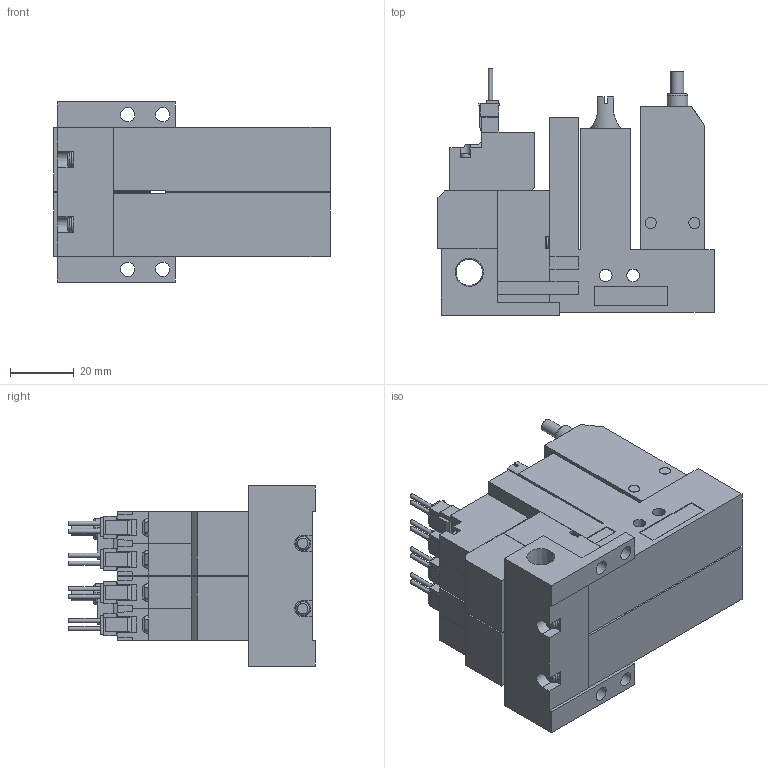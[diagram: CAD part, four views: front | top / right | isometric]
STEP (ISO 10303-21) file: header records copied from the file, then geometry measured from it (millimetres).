
FILE_DESCRIPTION(('STEP AP203'),'1');
FILE_NAME('ABS_ABPL5BLR202.stp','2025-02-18T06:29:37',(' '),(' '),'Spatial InterOp 3D',' ',' ');
FILE_SCHEMA(('CONFIG_CONTROL_DESIGN'));
Length unit declared in the file: millimetre
Products named in the file (5): BMC22M※※※※ABS_ABPL5BLR202; Solenoid valve B; Pressure sensor ABSL; Unit L; Base MR20R
Assembly tree (7 placements, depth 2):
  BMC22M※※※※ABS_ABPL5BLR202
    Solenoid valve B  x2
    Pressure sensor ABSL  x2
    Unit L  x2
    Base MR20R
Bounding box: 86.6 x 77.45 x 56.5 mm (x, y, z)
Volume: 182027.2 mm3; surface area: 51475.2 mm2
Topology: 7 solids, 7 shells, 723 faces, 1941 edges, 1282 vertices
Faces by surface type: plane 610, cylinder 89, cone 16, torus 8
Full cylindrical faces by diameter (mm): 1.4 x8, 2.5 x2, 3 x8, 3.5 x12, 3.6 x2, 4 x6, 4.134 x2, 4.5 x4, 5.2 x2, 6 x2, 6.5 x2, 6.6 x2, 8.279 x1
Entity records: 12047 total; most frequent: CARTESIAN_POINT 2219, ORIENTED_EDGE 1936, DIRECTION 1907, EDGE_CURVE 968, LINE 811, VECTOR 811, VERTEX_POINT 670, AXIS2_PLACEMENT_3D 548
